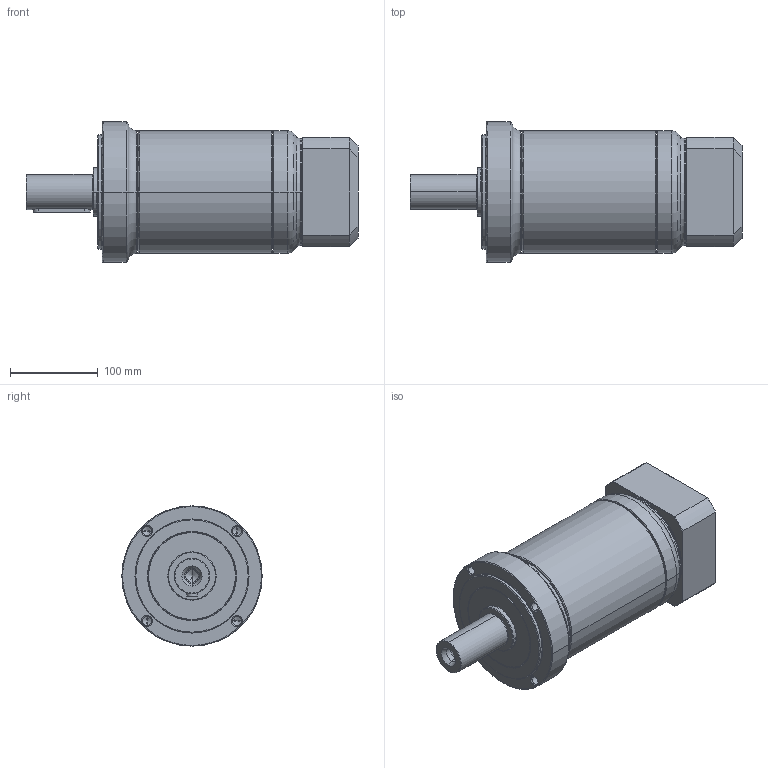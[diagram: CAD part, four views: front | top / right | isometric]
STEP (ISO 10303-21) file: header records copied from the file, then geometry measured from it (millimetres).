
FILE_DESCRIPTION((''),'2;1');
FILE_NAME('PG2-160_3ST_32-P0411700101_ASM','2016-04-19T',('d01943'),(''),'PRO/ENGINEER BY PARAMETRIC TECHNOLOGY CORPORATION, 2008410','PRO/ENGINEER BY PARAMETRIC TECHNOLOGY CORPORATION, 2008410','');
FILE_SCHEMA(('CONFIG_CONTROL_DESIGN'));
Length unit declared in the file: millimetre
Products named in the file (9): P1325510001; P0273500001; P1324500301; P0350501103; P0411700101; P0503700010; P0941503001; P1702600001; PG2-160_3ST_32-P0411700101_ASM
Assembly tree (8 placements, depth 2):
  PG2-160_3ST_32-P0411700101_ASM
    P1325510001
    P0273500001
    P1324500301
    P0350501103
    P0411700101
    P0503700010
    P0941503001
    P1702600001
Bounding box: 378.5 x 160 x 160 mm (x, y, z)
Volume: 2952220.9 mm3; surface area: 421696 mm2
Topology: 8 solids, 9 shells, 478 faces, 1045 edges, 602 vertices
Faces by surface type: cylinder 143, cone 140, torus 100, plane 79, bspline 16
Entity records: 17754 total; most frequent: CARTESIAN_POINT 6996, DIRECTION 2464, ORIENTED_EDGE 2034, AXIS2_PLACEMENT_3D 1059, EDGE_CURVE 1017, VERTEX_POINT 602, CIRCLE 580, EDGE_LOOP 541
